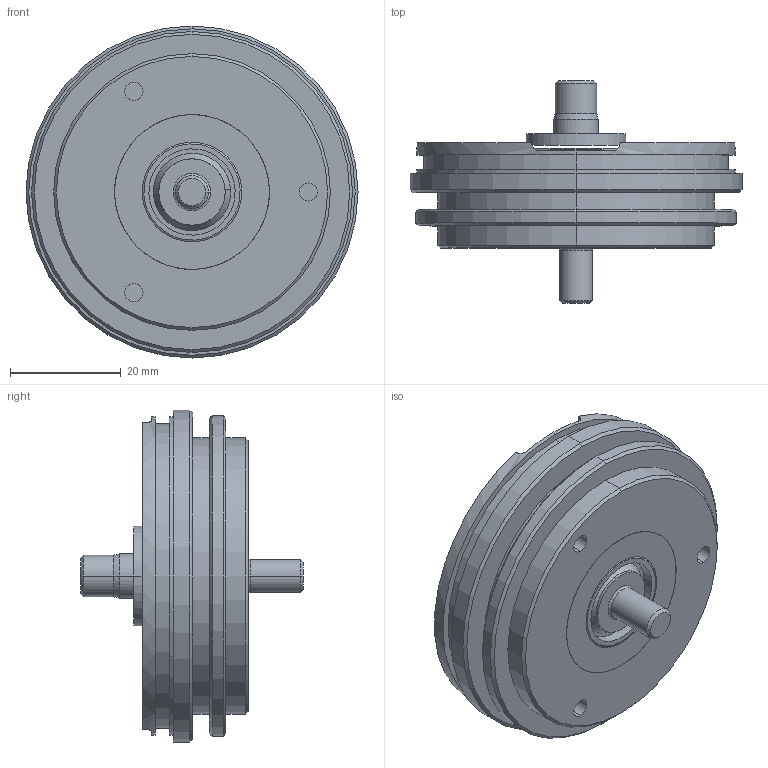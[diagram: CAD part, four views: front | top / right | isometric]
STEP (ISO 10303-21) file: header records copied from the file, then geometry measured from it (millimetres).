
FILE_DESCRIPTION (( 'STEP AP214' ), '1' );
FILE_NAME ('OCD-S06V-C5Y-N.STEP', '2015-06-17T07:22:59', ( '' ), ( '' ), 'SwSTEP 2.0', 'SolidWorks 2015', '' );
FILE_SCHEMA (( 'AUTOMOTIVE_DESIGN' ));
Length unit declared in the file: millimetre
Products named in the file (1): OCD-S06V-C5Y-N
Bounding box: 60 x 40.25 x 60 mm (x, y, z)
Surface area: 14565.7 mm2 (no closed solid volume)
Topology: 0 solids, 7 shells, 120 faces, 278 edges, 178 vertices
Faces by surface type: cylinder 68, plane 24, cone 20, torus 8
Entity records: 4885 total; most frequent: DIRECTION 690, CARTESIAN_POINT 669, ORIENTED_EDGE 514, AXIS2_PLACEMENT_3D 299, EDGE_CURVE 278, CIRCLE 178, VERTEX_POINT 178, EDGE_LOOP 147
